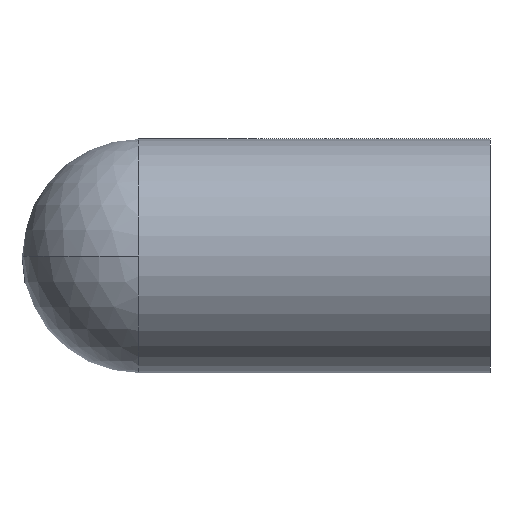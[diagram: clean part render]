
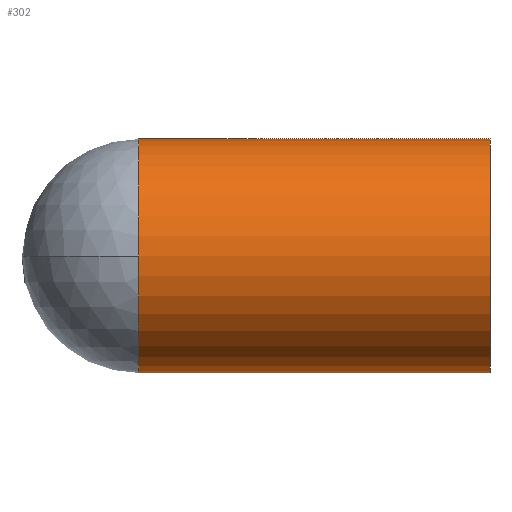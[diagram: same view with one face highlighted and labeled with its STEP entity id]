
A CAD part, left-side view. The second image highlights one B-rep face of the part: STEP entity #302.
In plain terms, the highlighted cylindrical face has radius 12.7 mm (diameter 25.4 mm), a partial arc.
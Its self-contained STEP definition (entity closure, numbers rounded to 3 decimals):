
#9 = VERTEX_POINT ( 'NONE', #305 ) ;
#17 = AXIS2_PLACEMENT_3D ( 'NONE', #169, #170, #171 ) ;
#36 = DIRECTION ( 'NONE',  ( 0., -1., 0. ) ) ;
#39 = ORIENTED_EDGE ( 'NONE', *, *, #209, .F. ) ;
#47 = ORIENTED_EDGE ( 'NONE', *, *, #201, .F. ) ;
#55 = CARTESIAN_POINT ( 'NONE',  ( -12.7, 0., 12.7 ) ) ;
#57 = AXIS2_PLACEMENT_3D ( 'NONE', #141, #36, #108 ) ;
#70 = VECTOR ( 'NONE', #179, 1000. ) ;
#71 = ORIENTED_EDGE ( 'NONE', *, *, #162, .T. ) ;
#78 = DIRECTION ( 'NONE',  ( 0., 0., -1. ) ) ;
#87 = DIRECTION ( 'NONE',  ( 0., -1., 0. ) ) ;
#93 = AXIS2_PLACEMENT_3D ( 'NONE', #115, #116, #131 ) ;
#108 = DIRECTION ( 'NONE',  ( 0., 0., -1. ) ) ;
#111 = CARTESIAN_POINT ( 'NONE',  ( -12.7, 0., 0. ) ) ;
#115 = CARTESIAN_POINT ( 'NONE',  ( -12.7, 38.1, 0. ) ) ;
#116 = DIRECTION ( 'NONE',  ( 0., -1., 0. ) ) ;
#124 = CARTESIAN_POINT ( 'NONE',  ( -12.7, 38.1, 12.7 ) ) ;
#131 = DIRECTION ( 'NONE',  ( 0., 0., -1. ) ) ;
#135 = VERTEX_POINT ( 'NONE', #267 ) ;
#137 = CARTESIAN_POINT ( 'NONE',  ( -12.7, 38.1, -12.7 ) ) ;
#141 = CARTESIAN_POINT ( 'NONE',  ( -12.7, 38.1, 0. ) ) ;
#155 = ORIENTED_EDGE ( 'NONE', *, *, #273, .T. ) ;
#157 = CARTESIAN_POINT ( 'NONE',  ( -12.7, 38.1, -12.7 ) ) ;
#162 = EDGE_CURVE ( 'NONE', #235, #135, #241, .T. ) ;
#163 = CARTESIAN_POINT ( 'NONE',  ( -12.7, 38.1, 12.7 ) ) ;
#169 = CARTESIAN_POINT ( 'NONE',  ( -12.7, 38.1, 0. ) ) ;
#170 = DIRECTION ( 'NONE',  ( 0., -1., 0. ) ) ;
#171 = DIRECTION ( 'NONE',  ( 0., 0., -1. ) ) ;
#179 = DIRECTION ( 'NONE',  ( 0., -1., 0. ) ) ;
#201 = EDGE_CURVE ( 'NONE', #230, #135, #254, .T. ) ;
#203 = CYLINDRICAL_SURFACE ( 'NONE', #57, 12.7 ) ;
#207 = FACE_OUTER_BOUND ( 'NONE', #221, .T. ) ;
#209 = EDGE_CURVE ( 'NONE', #307, #230, #278, .T. ) ;
#212 = DIRECTION ( 'NONE',  ( 0., -1., 0. ) ) ;
#221 = EDGE_LOOP ( 'NONE', ( #39, #155, #288, #71, #47 ) ) ;
#227 = CIRCLE ( 'NONE', #17, 12.7 ) ;
#230 = VERTEX_POINT ( 'NONE', #55 ) ;
#234 = AXIS2_PLACEMENT_3D ( 'NONE', #111, #87, #78 ) ;
#235 = VERTEX_POINT ( 'NONE', #137 ) ;
#241 = LINE ( 'NONE', #157, #70 ) ;
#254 = CIRCLE ( 'NONE', #234, 12.7 ) ;
#267 = CARTESIAN_POINT ( 'NONE',  ( -12.7, 0., -12.7 ) ) ;
#273 = EDGE_CURVE ( 'NONE', #307, #9, #276, .T. ) ;
#276 = CIRCLE ( 'NONE', #93, 12.7 ) ;
#278 = LINE ( 'NONE', #124, #301 ) ;
#288 = ORIENTED_EDGE ( 'NONE', *, *, #311, .T. ) ;
#301 = VECTOR ( 'NONE', #212, 1000. ) ;
#302 = ADVANCED_FACE ( 'NONE', ( #207 ), #203, .T. ) ;
#305 = CARTESIAN_POINT ( 'NONE',  ( -25.4, 38.1, 0. ) ) ;
#307 = VERTEX_POINT ( 'NONE', #163 ) ;
#311 = EDGE_CURVE ( 'NONE', #9, #235, #227, .T. ) ;
